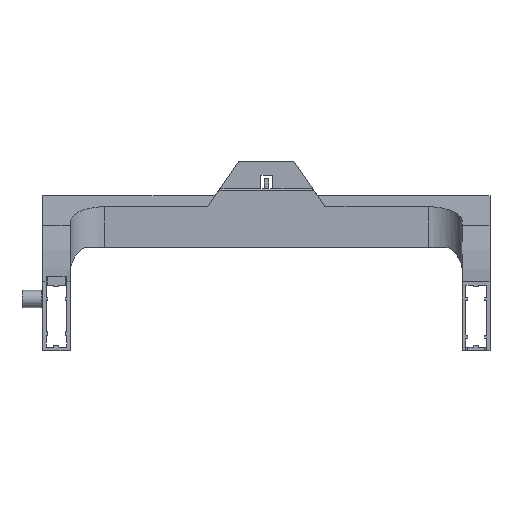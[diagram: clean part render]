
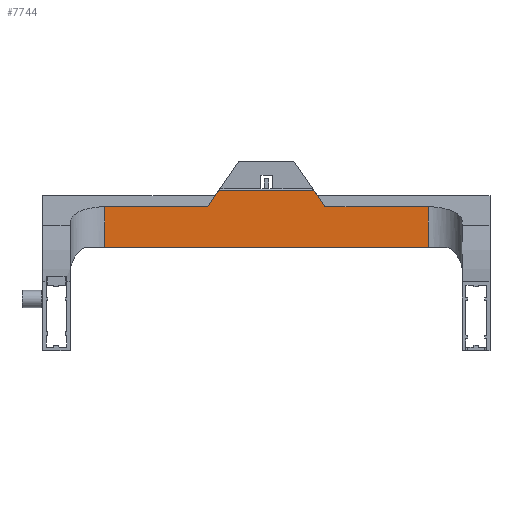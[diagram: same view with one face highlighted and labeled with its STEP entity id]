
A CAD part, left-side view. The second image highlights one B-rep face of the part: STEP entity #7744.
In plain terms, the highlighted planar face has unit normal (-1, 0, 0).
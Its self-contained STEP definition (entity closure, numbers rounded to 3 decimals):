
#1685=ORIENTED_EDGE('',*,*,#3744,.T.);
#1686=ORIENTED_EDGE('',*,*,#3745,.T.);
#1687=ORIENTED_EDGE('',*,*,#3746,.F.);
#1688=ORIENTED_EDGE('',*,*,#3747,.T.);
#1689=ORIENTED_EDGE('',*,*,#3748,.T.);
#1690=ORIENTED_EDGE('',*,*,#3749,.T.);
#1691=ORIENTED_EDGE('',*,*,#3750,.T.);
#1692=ORIENTED_EDGE('',*,*,#3751,.T.);
#3744=EDGE_CURVE('',#4776,#4777,#5469,.T.);
#3745=EDGE_CURVE('',#4777,#4778,#5470,.F.);
#3746=EDGE_CURVE('',#4779,#4778,#5471,.T.);
#3747=EDGE_CURVE('',#4779,#4780,#5472,.T.);
#3748=EDGE_CURVE('',#4780,#4781,#5473,.T.);
#3749=EDGE_CURVE('',#4781,#4782,#5474,.T.);
#3750=EDGE_CURVE('',#4782,#4783,#5475,.F.);
#3751=EDGE_CURVE('',#4783,#4776,#5476,.T.);
#4776=VERTEX_POINT('',#12756);
#4777=VERTEX_POINT('',#12757);
#4778=VERTEX_POINT('',#12759);
#4779=VERTEX_POINT('',#12761);
#4780=VERTEX_POINT('',#12763);
#4781=VERTEX_POINT('',#12765);
#4782=VERTEX_POINT('',#12767);
#4783=VERTEX_POINT('',#12769);
#5469=LINE('',#12755,#6148);
#5470=LINE('',#12758,#6149);
#5471=LINE('',#12760,#6150);
#5472=LINE('',#12762,#6151);
#5473=LINE('',#12764,#6152);
#5474=LINE('',#12766,#6153);
#5475=LINE('',#12768,#6154);
#5476=LINE('',#12770,#6155);
#6148=VECTOR('',#10082,1000.);
#6149=VECTOR('',#10083,1000.);
#6150=VECTOR('',#10084,1000.);
#6151=VECTOR('',#10085,1000.);
#6152=VECTOR('',#10086,1000.);
#6153=VECTOR('',#10087,1000.);
#6154=VECTOR('',#10088,1000.);
#6155=VECTOR('',#10089,1000.);
#6607=EDGE_LOOP('',(#1685,#1686,#1687,#1688,#1689,#1690,#1691,#1692));
#7098=FACE_BOUND('',#6607,.T.);
#7508=PLANE('',#8395);
#7744=ADVANCED_FACE('',(#7098),#7508,.T.);
#8395=AXIS2_PLACEMENT_3D('',#12754,#10080,#10081);
#10080=DIRECTION('',(-1.,0.,0.));
#10081=DIRECTION('',(0.,0.,1.));
#10082=DIRECTION('',(0.,1.,0.));
#10083=DIRECTION('',(0.,0.,1.));
#10084=DIRECTION('',(0.,1.,0.));
#10085=DIRECTION('',(0.,0.,1.));
#10086=DIRECTION('',(0.,1.,0.));
#10087=DIRECTION('',(0.,0.565,0.825));
#10088=DIRECTION('',(0.,-1.,0.));
#10089=DIRECTION('',(0.,0.565,-0.825));
#12754=CARTESIAN_POINT('',(57.666,-30.151,30.));
#12755=CARTESIAN_POINT('',(57.666,-30.151,41.803));
#12756=CARTESIAN_POINT('',(57.666,82.047,41.803));
#12757=CARTESIAN_POINT('',(57.666,112.,41.803));
#12758=CARTESIAN_POINT('',(57.666,112.,30.));
#12759=CARTESIAN_POINT('',(57.666,112.,30.));
#12760=CARTESIAN_POINT('',(57.666,-30.151,30.));
#12761=CARTESIAN_POINT('',(57.666,18.,30.));
#12762=CARTESIAN_POINT('',(57.666,18.,41.803));
#12763=CARTESIAN_POINT('',(57.666,18.,41.803));
#12764=CARTESIAN_POINT('',(57.666,-30.151,41.803));
#12765=CARTESIAN_POINT('',(57.666,47.953,41.803));
#12766=CARTESIAN_POINT('',(57.666,57.,55.));
#12767=CARTESIAN_POINT('',(57.666,51.173,46.5));
#12768=CARTESIAN_POINT('',(57.666,78.484,46.5));
#12769=CARTESIAN_POINT('',(57.666,78.827,46.5));
#12770=CARTESIAN_POINT('',(57.666,82.047,41.803));
